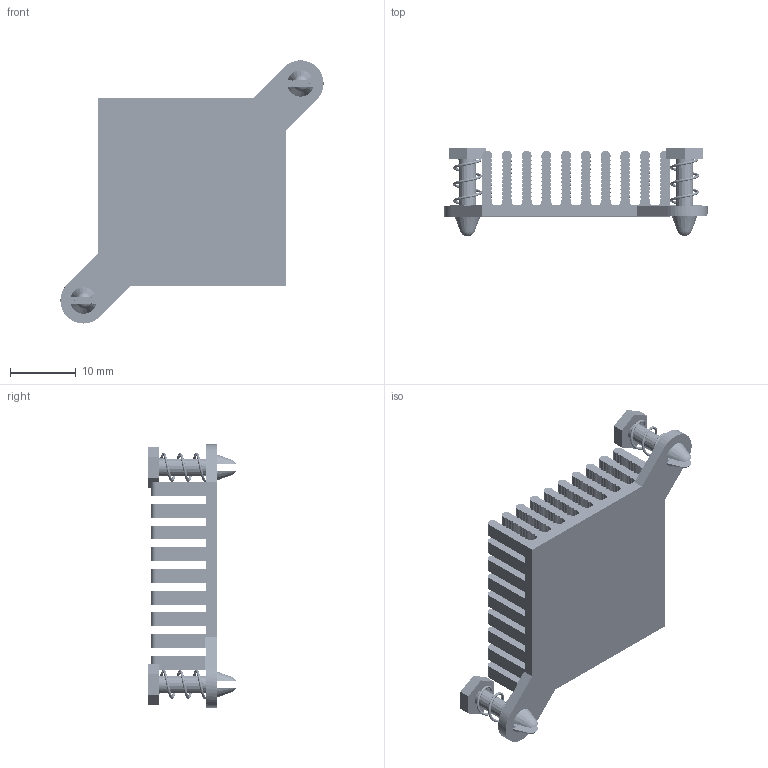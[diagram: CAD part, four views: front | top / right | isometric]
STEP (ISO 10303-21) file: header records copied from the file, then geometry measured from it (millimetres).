
FILE_DESCRIPTION (( 'STEP AP214' ), '1' );
FILE_NAME ('CUI_DEVICES_HSB25-282810.step', '2024-04-17T15:59:53', ( '' ), ( '' ), 'SwSTEP 2.0', 'SolidWorks 2024', '' );
FILE_SCHEMA (( 'AUTOMOTIVE_DESIGN' ));
Length unit declared in the file: inch
Products named in the file (1): CUI_DEVICES_HSB25-282810
Bounding box: 40 x 13.44 x 39.99 mm (x, y, z)
Volume: 3874.4 mm3; surface area: 7949.7 mm2
Topology: 5 solids, 5 shells, 9754 faces, 29222 edges, 19480 vertices
Faces by surface type: cylinder 5686, plane 4040, cone 16, sphere 8, bspline 4
Entity records: 334831 total; most frequent: CARTESIAN_POINT 60281, DIRECTION 60126, ORIENTED_EDGE 58444, EDGE_CURVE 29222, AXIS2_PLACEMENT_3D 21181, VERTEX_POINT 19480, VECTOR 17764, LINE 17764
